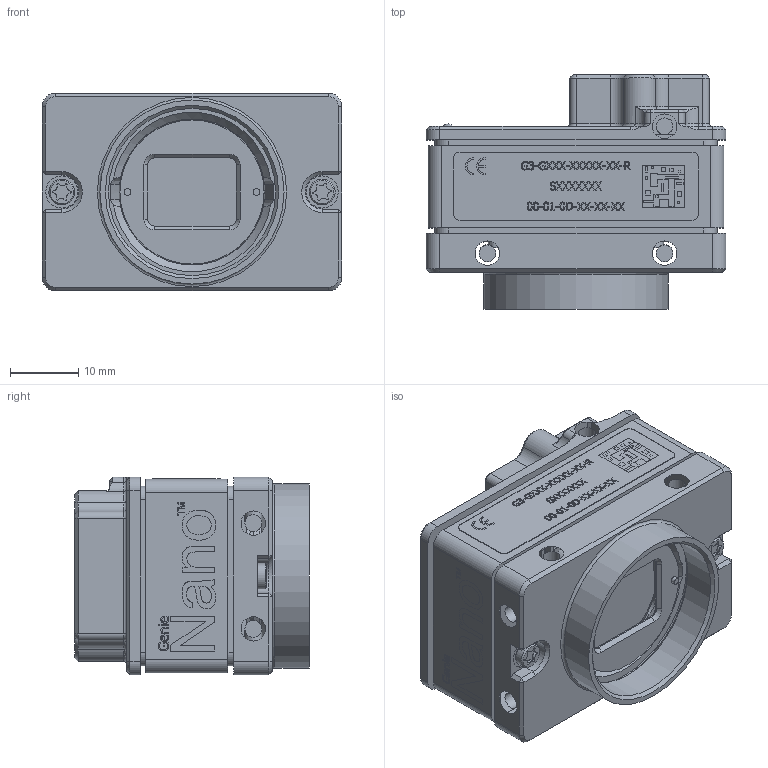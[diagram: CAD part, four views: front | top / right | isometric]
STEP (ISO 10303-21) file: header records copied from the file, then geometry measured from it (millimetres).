
FILE_DESCRIPTION(/* description */ (''),/* implementation_level */ '2;1');
FILE_NAME(/* name */ 'C:\Users\sduhra\Desktop\cad MODELS\NOVA CAMERA ASSEMBLY-SIZE 3 (CS-MOUNT) AR18.stp',/* time_stamp */ '2018-07-06T17:23:43-04:00',/* author */ ('sduhra'),/* organization */ (''),/* preprocessor_version */ 'ST-DEVELOPER v17',/* originating_system */ 'Autodesk Inventor 2018',/* authorisation */ '');
FILE_SCHEMA (('AUTOMOTIVE_DESIGN { 1 0 10303 214 3 1 1 }'));
Products named in the file (1): NOVA CAMERA ASSEMBLY-ar18-cs-mnt
Bounding box: 44 x 34.41 x 29 mm (x, y, z)
Volume: 26083.8 mm3; surface area: 13014.1 mm2
Topology: 2 solids, 2 shells, 2319 faces, 6257 edges, 4047 vertices
Faces by surface type: plane 1461, cylinder 418, bspline 304, cone 90, torus 38, sphere 8
Full cylindrical faces by diameter (mm): 1.2 x2, 1.567 x4, 1.7 x1, 2.459 x9, 3.8 x2, 4.7 x2, 24.536 x1, 25.654 x1, 27 x1
Entity records: 79660 total; most frequent: CARTESIAN_POINT 20861, ORIENTED_EDGE 12500, DIRECTION 10536, EDGE_CURVE 6250, LINE 4450, VECTOR 4450, VERTEX_POINT 4047, AXIS2_PLACEMENT_3D 3043
